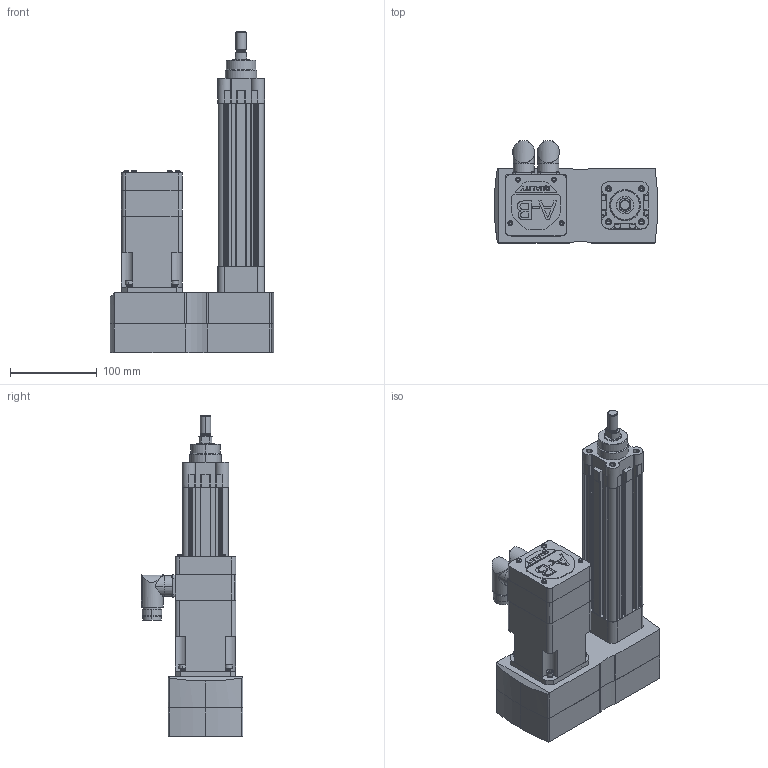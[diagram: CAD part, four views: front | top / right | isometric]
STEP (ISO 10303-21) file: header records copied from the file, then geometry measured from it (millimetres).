
FILE_DESCRIPTION (( 'STEP AP214' ), '1' );
FILE_NAME ('Rockwell Automation-$PARTNUMBER.STEP', '2015-02-26T17:14:14', ( 'Windows User' ), ( '' ), 'SwSTEP 2.0', 'SolidWorks 2015', '' );
FILE_SCHEMA (( 'AUTOMOTIVE_DESIGN' ));
Length unit declared in the file: millimetre
Products named in the file (16): Rockwell Automation-$PARTNUMBER_Rockwell Automation-MPAR-X2100F-V2D_2-543131; Rockwell Automation-$PARTNUMBER_Rockwell Automation-MPAR-X2100F-V2D_1-543131; Rockwell Automation-$PARTNUMBER; Rockwell Automation-$PARTNUMBER_Rockwell Automation-MPAR-X2100F-V2D_627502; Rockwell Automation-$PARTNUMBER_Rockwell Automation-MPAR-X2100F-V2D_627502_1212826_S_ASM; Rockwell Automation-$PARTNUMBER_Rockwell Automation-MPAR-X2100F-V2D_627502_1212372; Rockwell Automation-$PARTNUMBER_Rockwell Automation-MPAR-X2100F-V2D_627502_200129_3; Rockwell Automation-$PARTNUMBER_Rockwell Automation-MPAR-X2100F-V2D_627502_200672_1; Rockwell Automation-$PARTNUMBER_Rockwell Automation-MPAR-X2100F-V2D_627502_PRT0002; Rockwell Automation-$PARTNUMBER_Rockwell Automation-MPAR-X2100F-V2D_627502_1190018; Rockwell Automation-$PARTNUMBER_Rockwell Automation-MPAR-X2100F-V2D_MPL-x220F-V-X209_MPL-x220x-xJ42AA; Rockwell Automation-$PARTNUMBER_Rockwell Automation-MPAR-X2100F-V2D_MPL-x220x-xJ42AA_MPL-15xx-Feedback Connector; Rockwell Automation-$PARTNUMBER_Rockwell Automation-MPAR-X2100F-V2D_MPL-x220x-xJ42AA_MPL-15xx-Power Connector; Rockwell Automation-$PARTNUMBER_Rockwell Automation-MPAR-X2100F-V2D_MPL-x220x-xJ42AA_MPL-2xx-Shaft-Key_220-SHAFT-KEYED; Rockwell Automation-$PARTNUMBER_Rockwell Automation-MPAR-X2100F-V2D_MPL-x220x-xJ42AA_MPL-2xx-Body_220; Rockwell Automation-$PARTNUMBER_Rockwell Automation-MPAR-X2100F-V2D_MPAR-x2100x
Assembly tree (25 placements, depth 4):
  Rockwell Automation-$PARTNUMBER
    Rockwell Automation-$PARTNUMBER_Rockwell Automation-MPAR-X2100F-V2D_MPAR-x2100x
      Rockwell Automation-$PARTNUMBER_Rockwell Automation-MPAR-X2100F-V2D_1-543131
      Rockwell Automation-$PARTNUMBER_Rockwell Automation-MPAR-X2100F-V2D_2-543131
    Rockwell Automation-$PARTNUMBER_Rockwell Automation-MPAR-X2100F-V2D_MPL-x220F-V-X209_MPL-x220x-xJ42AA
      Rockwell Automation-$PARTNUMBER_Rockwell Automation-MPAR-X2100F-V2D_MPL-x220x-xJ42AA_MPL-2xx-Body_220
      Rockwell Automation-$PARTNUMBER_Rockwell Automation-MPAR-X2100F-V2D_MPL-x220x-xJ42AA_MPL-2xx-Shaft-Key_220-SHAFT-KEYED
      Rockwell Automation-$PARTNUMBER_Rockwell Automation-MPAR-X2100F-V2D_MPL-x220x-xJ42AA_MPL-15xx-Power Connector
      Rockwell Automation-$PARTNUMBER_Rockwell Automation-MPAR-X2100F-V2D_MPL-x220x-xJ42AA_MPL-15xx-Feedback Connector
    Rockwell Automation-$PARTNUMBER_Rockwell Automation-MPAR-X2100F-V2D_627502
      Rockwell Automation-$PARTNUMBER_Rockwell Automation-MPAR-X2100F-V2D_627502_1212826_S_ASM
        Rockwell Automation-$PARTNUMBER_Rockwell Automation-MPAR-X2100F-V2D_627502_1190018
        Rockwell Automation-$PARTNUMBER_Rockwell Automation-MPAR-X2100F-V2D_627502_PRT0002  x4
        Rockwell Automation-$PARTNUMBER_Rockwell Automation-MPAR-X2100F-V2D_627502_200672_1  x4
        Rockwell Automation-$PARTNUMBER_Rockwell Automation-MPAR-X2100F-V2D_627502_200129_3  x5
        Rockwell Automation-$PARTNUMBER_Rockwell Automation-MPAR-X2100F-V2D_627502_1212372
Bounding box: 188.12 x 117.09 x 369.5 mm (x, y, z)
Volume: 1818693.8 mm3; surface area: 371285.1 mm2
Topology: 25 solids, 25 shells, 1660 faces, 4024 edges, 2538 vertices
Faces by surface type: plane 664, cylinder 580, cone 254, bspline 114, torus 48
Entity records: 44664 total; most frequent: CARTESIAN_POINT 10407, DIRECTION 7254, ORIENTED_EDGE 6664, EDGE_CURVE 3332, AXIS2_PLACEMENT_3D 2728, VERTEX_POINT 2118, VECTOR 1798, LINE 1798
